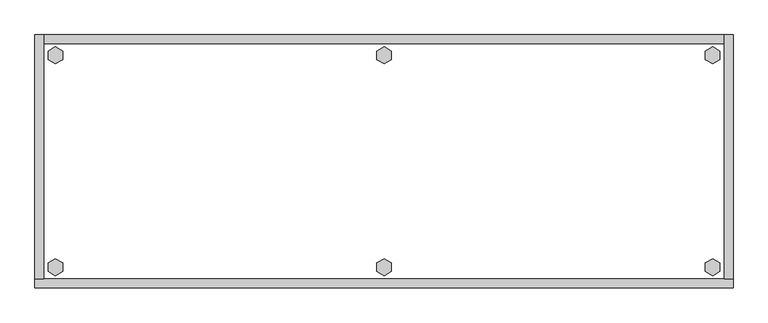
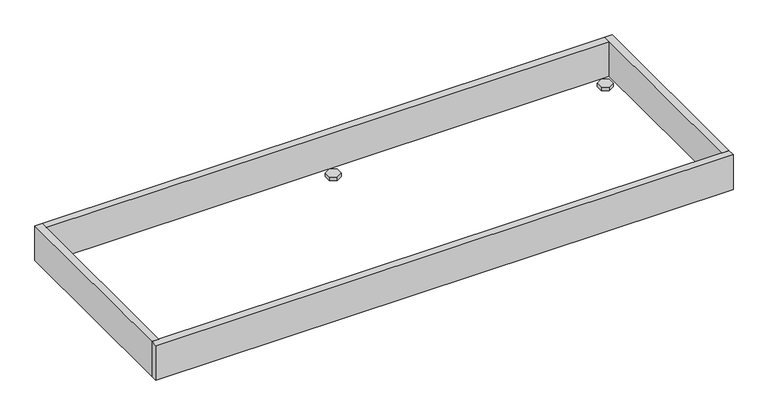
"""IFC4 building model written with IfcOpenShell, lengths in millimetres: furniture geometry, HermanMiller_Mora_CH250_PlinthBaseFinished : Flush on Both/Inline HPL 24D 60W."""

import ifcopenshell
import ifcopenshell.guid

model = None  # the IFC model being written
_history = None  # IfcOwnerHistory: only IFC2X3 demands one
_inside = {}  # id of a spatial element -> (the spatial element, [elements in it])
_under = {}  # id of a project, library or spatial element -> (it, [spatial elements below it])
_declared = {}  # id of a project -> (the project, [libraries it declares])
_typed = {}  # id of a type object -> (the type object, [elements of that type])
_made_of = {}  # id of a material, layer set ... -> (it, [elements and type objects made of it])


def new_model(schema):
    """Start an empty IFC model of exactly this schema.

    Asked for "IFC4X3", IfcOpenShell would pick the latest addendum, in which some entities
    have other attributes; the version numbers below select the first issue.
    IFC2X3 requires an IfcOwnerHistory on every rooted entity: one is made here for all.
    """
    global model, _history
    if schema == "IFC4X3":
        model = ifcopenshell.file(schema_version=(4, 3, 0, 0))
    else:
        model = ifcopenshell.file(schema=schema)
    _inside.clear()
    _under.clear()
    _declared.clear()
    _typed.clear()
    _made_of.clear()
    _history = None
    if model.schema == "IFC2X3":
        org = make("IfcOrganization", Name="unknown")
        user = make(
            "IfcPersonAndOrganization",
            ThePerson=make("IfcPerson", FamilyName="unknown"),
            TheOrganization=org,
        )
        app = make(
            "IfcApplication",
            ApplicationDeveloper=org,
            Version="unknown",
            ApplicationFullName="unknown",
            ApplicationIdentifier="unknown",
        )
        _history = make(
            "IfcOwnerHistory",
            OwningUser=user,
            OwningApplication=app,
            ChangeAction="ADDED",
            CreationDate=0,
        )
    return model


def make(cls, **values):
    """One entity of the class cls with the attributes given. An attribute that is None is left unset."""
    return model.create_entity(
        cls, **{name: value for name, value in values.items() if value is not None}
    )


def rooted(cls, **values):
    """An entity with a GlobalId (a new one), such as an element, a storey or a relation."""
    return make(cls, GlobalId=ifcopenshell.guid.new(), OwnerHistory=_history, **values)


def si_unit(unit_type, name, prefix=None):
    """IfcSIUnit, for example si_unit("LENGTHUNIT", "METRE", prefix="MILLI")."""
    return make("IfcSIUnit", UnitType=unit_type, Prefix=prefix, Name=name)


def assignment(units):
    """IfcUnitAssignment: the units of a project."""
    return None if units is None else make("IfcUnitAssignment", Units=units)


def point(xyz):
    """IfcCartesianPoint."""
    return None if xyz is None else make("IfcCartesianPoint", Coordinates=xyz)


def direction(xyz):
    """IfcDirection."""
    return None if xyz is None else make("IfcDirection", DirectionRatios=xyz)


def frame(location, z_axis=None, x_axis=None):
    """IfcAxis2Placement3D, a coordinate frame: its origin and axes. An axis left out is left unset."""
    return make(
        "IfcAxis2Placement3D",
        Location=point(location),
        Axis=direction(z_axis),
        RefDirection=direction(x_axis),
    )


def origin():
    """The frame at (0, 0, 0) with its axes left unset."""
    return frame((0.0, 0.0, 0.0))


def origin_with_axes():
    """The frame at (0, 0, 0) with the z axis (0, 0, 1) and the x axis (1, 0, 0) written out."""
    return frame((0.0, 0.0, 0.0), z_axis=(0.0, 0.0, 1.0), x_axis=(1.0, 0.0, 0.0))


def place(relative_to, where):
    """IfcLocalPlacement: puts the frame where relative to a parent placement (None: the world)."""
    return make(
        "IfcLocalPlacement", PlacementRelTo=relative_to, RelativePlacement=where
    )


def context(
    kind, dimensions, precision=None, world=None, true_north=None, identifier=None
):
    """IfcGeometricRepresentationContext, for example the 3D "Model" context."""
    return make(
        "IfcGeometricRepresentationContext",
        ContextIdentifier=identifier,
        ContextType=kind,
        CoordinateSpaceDimension=dimensions,
        Precision=precision,
        WorldCoordinateSystem=world,
        TrueNorth=true_north,
    )


def project(units=None, contexts=None):
    """IfcProject with its units and contexts."""
    return rooted(
        "IfcProject",
        Name="project",
        RepresentationContexts=contexts,
        UnitsInContext=assignment(units),
    )


def spatial(cls, under=None, at=None, **own):
    """A site, building, storey or space (cls), placed at a placement, below another one or the project."""
    s = rooted(cls, ObjectPlacement=at, **own)
    if under is not None:
        _under.setdefault(under.id(), (under, []))[1].append(s)
    return s


def polyline(points):
    """IfcPolyline through the points."""
    return make("IfcPolyline", Points=[point(p) for p in points])


def outline(outer, holes=None, kind="AREA"):
    """IfcArbitraryClosedProfileDef: a profile drawn as a closed curve; with holes, ...WithVoids."""
    if holes is None:
        return make("IfcArbitraryClosedProfileDef", ProfileType=kind, OuterCurve=outer)
    return make(
        "IfcArbitraryProfileDefWithVoids",
        ProfileType=kind,
        OuterCurve=outer,
        InnerCurves=holes,
    )


def extrude(swept, where, along, depth):
    """IfcExtrudedAreaSolid: the profile swept, set in the frame where, extruded along a direction by depth."""
    return make(
        "IfcExtrudedAreaSolid",
        SweptArea=swept,
        Position=where,
        ExtrudedDirection=direction(along),
        Depth=depth,
    )


def shape(context_of_items, identifier, shape_type, items):
    """IfcShapeRepresentation: the items that make up one representation, for example the "Body"."""
    return make(
        "IfcShapeRepresentation",
        ContextOfItems=context_of_items,
        RepresentationIdentifier=identifier,
        RepresentationType=shape_type,
        Items=items,
    )


def source(mapping_origin, context_of_items, identifier, shape_type, items):
    """IfcRepresentationMap: a shape defined once, which mapped items show again and again."""
    return make(
        "IfcRepresentationMap",
        MappingOrigin=mapping_origin,
        MappedRepresentation=shape(context_of_items, identifier, shape_type, items),
    )


def transform(
    local_origin,
    x_axis=None,
    y_axis=None,
    z_axis=None,
    scale=None,
    scale2=None,
    scale3=None,
    uniform=True,
):
    """IfcCartesianTransformationOperator3D, or its non-uniform kind. x_axis, y_axis, z_axis: its Axis1, 2, 3."""
    if uniform:
        return make(
            "IfcCartesianTransformationOperator3D",
            Axis1=direction(x_axis),
            Axis2=direction(y_axis),
            LocalOrigin=point(local_origin),
            Scale=scale,
            Axis3=direction(z_axis),
        )
    return make(
        "IfcCartesianTransformationOperator3DnonUniform",
        Axis1=direction(x_axis),
        Axis2=direction(y_axis),
        LocalOrigin=point(local_origin),
        Scale=scale,
        Axis3=direction(z_axis),
        Scale2=scale2,
        Scale3=scale3,
    )


def mapped(mapping_source, mapping_target):
    """IfcMappedItem: shows the shape of a source again, moved by a transform."""
    return make(
        "IfcMappedItem", MappingSource=mapping_source, MappingTarget=mapping_target
    )


def made_of(thing, what):
    """Note that an element or type object is made of a material, layer set ...; save() writes the relation."""
    if what is not None:
        _made_of.setdefault(what.id(), (what, []))[1].append(thing)
    return thing


def element(
    cls,
    number,
    at=None,
    inside=None,
    cuts=None,
    type_object=None,
    material=None,
    context=None,
    identifier="Body",
    shape_type=None,
    held_by="IfcProductDefinitionShape",
    body=None,
    shapes=None,
    **own,
):
    """One element of the class cls, such as IfcWall. Its Tag is "e" and its number.

    at: its placement. inside: the storey or other place that contains it. cuts: it is an
    opening in that element (IfcRelVoidsElement). A single representation is given by context,
    identifier, shape_type and body (its items); several are given by shapes. held_by: the class
    of the entity that holds the representations. save() writes the other relations.
    """
    e = rooted(cls, Tag="e%d" % number, ObjectPlacement=at, **own)
    if body is not None:
        shapes = [shape(context, identifier, shape_type, body)]
    if shapes is not None:
        e.Representation = make(held_by, Representations=shapes)
    if inside is not None:
        _inside.setdefault(inside.id(), (inside, []))[1].append(e)
    if cuts is not None:
        rooted(
            "IfcRelVoidsElement", RelatingBuildingElement=cuts, RelatedOpeningElement=e
        )
    if type_object is not None:
        _typed.setdefault(type_object.id(), (type_object, []))[1].append(e)
    return made_of(e, material)


def aggregate(whole, parts):
    """IfcRelAggregates: a whole, such as a stair, and the parts it consists of."""
    return rooted("IfcRelAggregates", RelatingObject=whole, RelatedObjects=parts)


def save(model, path):
    """Write the relations noted so far, then the file.

    IfcRelAggregates (storeys below a building ...), IfcRelContainedInSpatialStructure (elements
    in a storey), IfcRelDefinesByType, IfcRelAssociatesMaterial and IfcRelDeclares: one each for
    every whole, place, type object, material and project.
    """
    for whole, parts in _under.values():
        aggregate(whole, parts)
    for where, things in _inside.values():
        rooted(
            "IfcRelContainedInSpatialStructure",
            RelatedElements=things,
            RelatingStructure=where,
        )
    for kind, things in _typed.values():
        rooted("IfcRelDefinesByType", RelatedObjects=things, RelatingType=kind)
    for what, things in _made_of.values():
        rooted("IfcRelAssociatesMaterial", RelatedObjects=things, RelatingMaterial=what)
    for by, libraries in _declared.values():
        rooted("IfcRelDeclares", RelatingContext=by, RelatedDefinitions=libraries)
    model.write(path)


def furniture_61016704(model_context):
    return source(origin(), model_context, "Body", "SweptSolid", [
        extrude(outline(polyline([(1463.3735422, -498.8179), (1479.3214, -489.6104), (1495.2692578, -498.8179), (1495.2692578, -517.2329), (1479.3214, -526.4404), (1463.3735422, -517.2329), (1463.3735422, -498.8179)])), origin_with_axes(), (0.0, 0.0, 1.0), 9.144),
        extrude(outline(polyline([(1463.3735422, -35.4711), (1479.3214, -26.2636), (1495.2692578, -35.4711), (1495.2692578, -53.8861), (1479.3214, -63.0936), (1463.3735422, -53.8861), (1463.3735422, -35.4711)])), origin_with_axes(), (0.0, 0.0, 1.0), 9.144),
        extrude(outline(polyline([(746.0521422, -498.8179), (762.0, -489.6104), (777.9478578, -498.8179), (777.9478578, -517.2329), (762.0, -526.4404), (746.0521422, -517.2329), (746.0521422, -498.8179)])), origin_with_axes(), (0.0, 0.0, 1.0), 9.144),
        extrude(outline(polyline([(746.0521422, -35.4711), (762.0, -26.2636), (777.9478578, -35.4711), (777.9478578, -53.8861), (762.0, -63.0936), (746.0521422, -53.8861), (746.0521422, -35.4711)])), origin_with_axes(), (0.0, 0.0, 1.0), 9.144),
        extrude(outline(polyline([(28.7307422, -498.8179), (44.6786, -489.6104), (60.6264578, -498.8179), (60.6264578, -517.2329), (44.6786, -526.4404), (28.7307422, -517.2329), (28.7307422, -498.8179)])), origin_with_axes(), (0.0, 0.0, 1.0), 9.144),
        extrude(outline(polyline([(28.7307422, -35.4711), (44.6786, -26.2636), (60.6264578, -35.4711), (60.6264578, -53.8861), (44.6786, -63.0936), (28.7307422, -53.8861), (28.7307422, -35.4711)])), origin_with_axes(), (0.0, 0.0, 1.0), 9.144),
        extrude(outline(polyline([(19.304, 0.0), (19.304, -533.4), (0.0, -533.4), (0.0, 0.0), (19.304, 0.0)])), frame((0.0, 0.0, 4.699), z_axis=(0.0, 0.0, 1.0), x_axis=(1.0, 0.0, 0.0)), (0.0, 0.0, 1.0), 96.901),
        extrude(outline(polyline([(1524.0, 0.0), (1524.0, -533.4), (1504.696, -533.4), (1504.696, 0.0), (1524.0, 0.0)])), frame((0.0, 0.0, 4.699), z_axis=(0.0, 0.0, 1.0), x_axis=(1.0, 0.0, 0.0)), (0.0, 0.0, 1.0), 96.901),
        extrude(outline(polyline([(1504.696, -19.304), (19.304, -19.304), (19.304, 0.0), (1504.696, 0.0), (1504.696, -19.304)])), frame((0.0, 0.0, 4.699), z_axis=(0.0, 0.0, 1.0), x_axis=(1.0, 0.0, 0.0)), (0.0, 0.0, 1.0), 96.901),
        extrude(outline(polyline([(1524.0, -533.4), (1524.0, -552.704), (0.0, -552.704), (0.0, -533.4), (1524.0, -533.4)])), frame((0.0, 0.0, 4.699), z_axis=(0.0, 0.0, 1.0), x_axis=(1.0, 0.0, 0.0)), (0.0, 0.0, 1.0), 96.901),
    ])


if __name__ == "__main__":
    model = new_model("IFC4")
    model_context = context("Model", 3, world=origin())
    ifc_project = project(units=[si_unit("LENGTHUNIT", "METRE", prefix="MILLI")], contexts=[model_context])
    site = spatial("IfcSite", under=ifc_project)
    building = spatial("IfcBuilding", under=site)
    placement = place(None, origin())
    furniture_shape = furniture_61016704(model_context)
    element("IfcFurniture", 1, ObjectType="HermanMiller_Mora_CH250_PlinthBaseFinished : Flush on Both/Inline HPL 24D 60W", at=placement, inside=building, context=model_context, shape_type="MappedRepresentation", body=[
        mapped(furniture_shape, transform((0.0, 0.0, 0.0), x_axis=(1.0, 0.0, 0.0), y_axis=(0.0, 1.0, 0.0), z_axis=(0.0, 0.0, 1.0))),
    ])
    save(model, "model.ifc")
